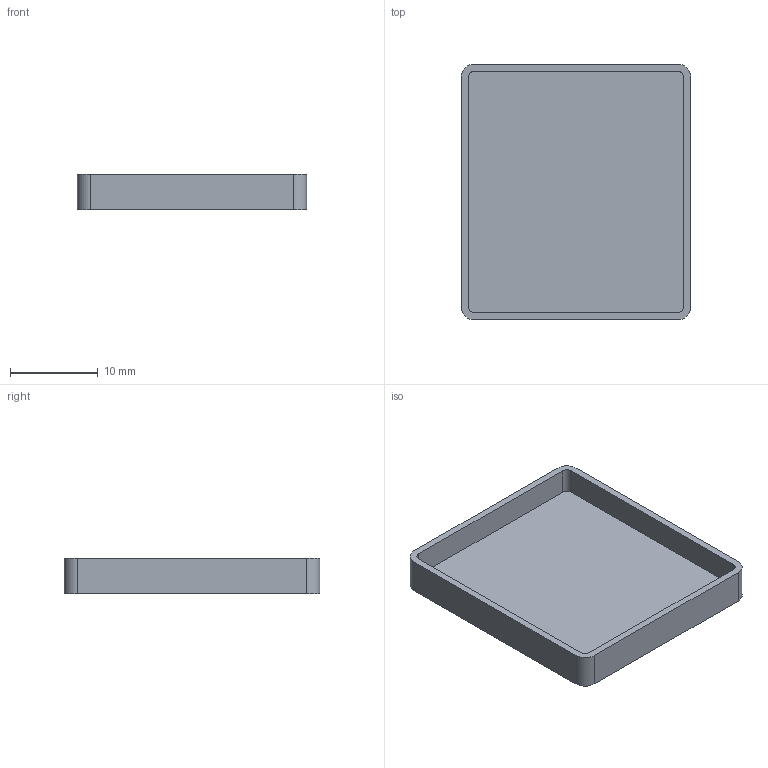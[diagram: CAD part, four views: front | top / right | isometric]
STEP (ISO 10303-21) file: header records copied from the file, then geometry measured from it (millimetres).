
FILE_DESCRIPTION(('Open CASCADE Model'),'2;1');
FILE_NAME('Open CASCADE Shape Model','2026-10-27T13:08:00',('Author'),( 'Open CASCADE'),'Open CASCADE STEP processor 7.9','Open CASCADE 7.9' ,'Unknown');
FILE_SCHEMA(('AUTOMOTIVE_DESIGN { 1 0 10303 214 1 1 1 1 }'));
Length unit declared in the file: millimetre
Products named in the file (1): Open CASCADE STEP translator 7.9 2
Bounding box: 26.2 x 29.2 x 4 mm (x, y, z)
Volume: 1016.8 mm3; surface area: 2268.7 mm2
Topology: 1 solids, 1 shells, 19 faces, 48 edges, 32 vertices
Faces by surface type: plane 11, cylinder 8
Entity records: 1222 total; most frequent: CARTESIAN_POINT 240, DIRECTION 186, LINE 104, VECTOR 104, ORIENTED_EDGE 96, PCURVE 96, DEFINITIONAL_REPRESENTATION 96, EDGE_CURVE 48
